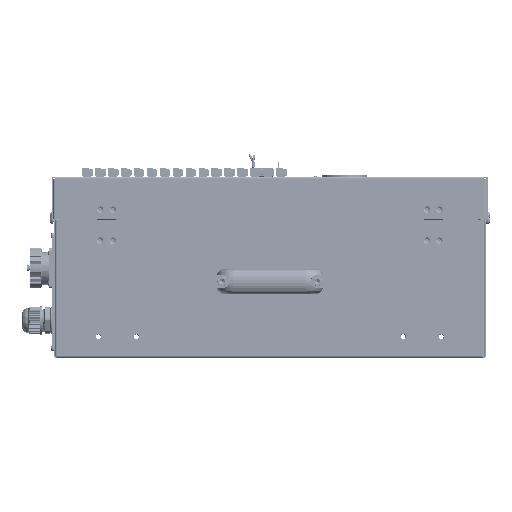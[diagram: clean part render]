
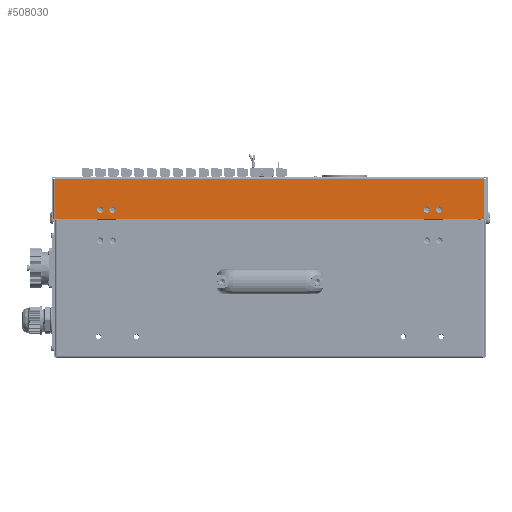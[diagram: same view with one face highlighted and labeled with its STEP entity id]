
A CAD part, front view. The second image highlights one B-rep face of the part: STEP entity #508030.
In plain terms, the highlighted planar face has unit normal (0, -1, 0) as drawn and (0, 1, 0) by its records, which use the part's own axes.
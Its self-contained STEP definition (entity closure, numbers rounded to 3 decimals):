
#704 = CIRCLE ( 'NONE', #171982, 3.35 ) ;
#3171 = LINE ( 'NONE', #317908, #179573 ) ;
#6655 = DIRECTION ( 'NONE',  ( 1., 0., 0. ) ) ;
#9354 = CARTESIAN_POINT ( 'NONE',  ( 178., 85., 36.35 ) ) ;
#19667 = EDGE_LOOP ( 'NONE', ( #700141, #388640 ) ) ;
#40355 = EDGE_CURVE ( 'NONE', #500561, #677300, #829989, .T. ) ;
#43364 = AXIS2_PLACEMENT_3D ( 'NONE', #459172, #386865, #922366 ) ;
#46077 = ORIENTED_EDGE ( 'NONE', *, *, #455332, .F. ) ;
#76170 = DIRECTION ( 'NONE',  ( 0., 1., 0. ) ) ;
#78051 = CARTESIAN_POINT ( 'NONE',  ( 225.4, 85., 0.5 ) ) ;
#78716 = EDGE_CURVE ( 'NONE', #88419, #425258, #3171, .T. ) ;
#87943 = EDGE_LOOP ( 'NONE', ( #888304, #640001, #505642, #624016 ) ) ;
#88419 = VERTEX_POINT ( 'NONE', #318097 ) ;
#94039 = EDGE_CURVE ( 'NONE', #402740, #586311, #324300, .T. ) ;
#110724 = DIRECTION ( 'NONE',  ( 0., 0., 1. ) ) ;
#115461 = DIRECTION ( 'NONE',  ( 0., 0., 1. ) ) ;
#118686 = DIRECTION ( 'NONE',  ( 0., 1., 0. ) ) ;
#127034 = DIRECTION ( 'NONE',  ( 0., 1., 0. ) ) ;
#130640 = EDGE_CURVE ( 'NONE', #586311, #402740, #425276, .T. ) ;
#141798 = LINE ( 'NONE', #778098, #752919 ) ;
#156162 = CARTESIAN_POINT ( 'NONE',  ( 178., 85., 33. ) ) ;
#156526 = VERTEX_POINT ( 'NONE', #568489 ) ;
#169940 = VERTEX_POINT ( 'NONE', #590546 ) ;
#171982 = AXIS2_PLACEMENT_3D ( 'NONE', #526538, #76170, #677769 ) ;
#179573 = VECTOR ( 'NONE', #481869, 1000. ) ;
#191226 = ORIENTED_EDGE ( 'NONE', *, *, #40355, .F. ) ;
#192500 = FACE_OUTER_BOUND ( 'NONE', #87943, .T. ) ;
#201734 = AXIS2_PLACEMENT_3D ( 'NONE', #565717, #118686, #115461 ) ;
#220878 = VERTEX_POINT ( 'NONE', #528715 ) ;
#221768 = CIRCLE ( 'NONE', #598335, 3.35 ) ;
#226929 = CARTESIAN_POINT ( 'NONE',  ( 225.4, 85., 43. ) ) ;
#228561 = DIRECTION ( 'NONE',  ( 0., 1., 0. ) ) ;
#245497 = DIRECTION ( 'NONE',  ( -1., 0., 0. ) ) ;
#251252 = DIRECTION ( 'NONE',  ( 0., 0., 1. ) ) ;
#255924 = EDGE_CURVE ( 'NONE', #827995, #169940, #141798, .T. ) ;
#267923 = CIRCLE ( 'NONE', #201734, 3.35 ) ;
#274556 = FACE_BOUND ( 'NONE', #822486, .T. ) ;
#287351 = AXIS2_PLACEMENT_3D ( 'NONE', #350666, #127034, #951975 ) ;
#317908 = CARTESIAN_POINT ( 'NONE',  ( -225.4, 85., 0. ) ) ;
#318097 = CARTESIAN_POINT ( 'NONE',  ( -225.4, 85., 43. ) ) ;
#322716 = CARTESIAN_POINT ( 'NONE',  ( 165., 85., 33. ) ) ;
#324300 = CIRCLE ( 'NONE', #341841, 3.35 ) ;
#341841 = AXIS2_PLACEMENT_3D ( 'NONE', #322716, #628152, #763157 ) ;
#349750 = VERTEX_POINT ( 'NONE', #766215 ) ;
#350666 = CARTESIAN_POINT ( 'NONE',  ( -165., 85., 33. ) ) ;
#352063 = DIRECTION ( 'NONE',  ( 0., 1., 0. ) ) ;
#367466 = EDGE_CURVE ( 'NONE', #220878, #156526, #267923, .T. ) ;
#386865 = DIRECTION ( 'NONE',  ( 0., 1., 0. ) ) ;
#388640 = ORIENTED_EDGE ( 'NONE', *, *, #94039, .F. ) ;
#392292 = FACE_BOUND ( 'NONE', #536755, .T. ) ;
#402740 = VERTEX_POINT ( 'NONE', #477770 ) ;
#421004 = CARTESIAN_POINT ( 'NONE',  ( 165., 85., 33. ) ) ;
#425258 = VERTEX_POINT ( 'NONE', #703007 ) ;
#425276 = CIRCLE ( 'NONE', #451438, 3.35 ) ;
#432694 = CARTESIAN_POINT ( 'NONE',  ( -178., 85., 33. ) ) ;
#434826 = EDGE_CURVE ( 'NONE', #827995, #425258, #869616, .T. ) ;
#445012 = ORIENTED_EDGE ( 'NONE', *, *, #902217, .F. ) ;
#451438 = AXIS2_PLACEMENT_3D ( 'NONE', #421004, #352063, #644534 ) ;
#455332 = EDGE_CURVE ( 'NONE', #349750, #793153, #221768, .T. ) ;
#459172 = CARTESIAN_POINT ( 'NONE',  ( -165., 85., 33. ) ) ;
#466577 = CIRCLE ( 'NONE', #696536, 3.35 ) ;
#468979 = ORIENTED_EDGE ( 'NONE', *, *, #735029, .F. ) ;
#474686 = DIRECTION ( 'NONE',  ( 0., 1., 0. ) ) ;
#477770 = CARTESIAN_POINT ( 'NONE',  ( 165., 85., 29.65 ) ) ;
#481034 = VECTOR ( 'NONE', #245497, 1000. ) ;
#481869 = DIRECTION ( 'NONE',  ( 0., 0., -1. ) ) ;
#493955 = CARTESIAN_POINT ( 'NONE',  ( -165., 85., 36.35 ) ) ;
#500561 = VERTEX_POINT ( 'NONE', #493955 ) ;
#505642 = ORIENTED_EDGE ( 'NONE', *, *, #78716, .F. ) ;
#508030 = ADVANCED_FACE ( 'NONE', ( #874213, #721479, #274556, #392292, #192500 ), #701470, .T. ) ;
#514812 = DIRECTION ( 'NONE',  ( 0., 0., 1. ) ) ;
#514919 = ORIENTED_EDGE ( 'NONE', *, *, #938410, .F. ) ;
#526538 = CARTESIAN_POINT ( 'NONE',  ( 178., 85., 33. ) ) ;
#528715 = CARTESIAN_POINT ( 'NONE',  ( -178., 85., 29.65 ) ) ;
#536755 = EDGE_LOOP ( 'NONE', ( #191226, #514919 ) ) ;
#565717 = CARTESIAN_POINT ( 'NONE',  ( -178., 85., 33. ) ) ;
#568489 = CARTESIAN_POINT ( 'NONE',  ( -178., 85., 36.35 ) ) ;
#570116 = AXIS2_PLACEMENT_3D ( 'NONE', #698248, #474686, #251252 ) ;
#575803 = CIRCLE ( 'NONE', #287351, 3.35 ) ;
#586311 = VERTEX_POINT ( 'NONE', #776375 ) ;
#590546 = CARTESIAN_POINT ( 'NONE',  ( 225.4, 85., 43. ) ) ;
#598335 = AXIS2_PLACEMENT_3D ( 'NONE', #156162, #228561, #682062 ) ;
#624016 = ORIENTED_EDGE ( 'NONE', *, *, #850926, .T. ) ;
#628152 = DIRECTION ( 'NONE',  ( 0., 1., 0. ) ) ;
#640001 = ORIENTED_EDGE ( 'NONE', *, *, #434826, .T. ) ;
#644534 = DIRECTION ( 'NONE',  ( 0., 0., 1. ) ) ;
#677300 = VERTEX_POINT ( 'NONE', #946052 ) ;
#677769 = DIRECTION ( 'NONE',  ( 0., 0., 1. ) ) ;
#682062 = DIRECTION ( 'NONE',  ( 0., 0., 1. ) ) ;
#696536 = AXIS2_PLACEMENT_3D ( 'NONE', #432694, #965072, #514812 ) ;
#698248 = CARTESIAN_POINT ( 'NONE',  ( 0., 85., 0. ) ) ;
#700141 = ORIENTED_EDGE ( 'NONE', *, *, #130640, .F. ) ;
#701470 = PLANE ( 'NONE',  #570116 ) ;
#703007 = CARTESIAN_POINT ( 'NONE',  ( -225.4, 85., 0.5 ) ) ;
#721479 = FACE_BOUND ( 'NONE', #19667, .T. ) ;
#735029 = EDGE_CURVE ( 'NONE', #793153, #349750, #704, .T. ) ;
#735569 = LINE ( 'NONE', #226929, #959089 ) ;
#752919 = VECTOR ( 'NONE', #110724, 1000. ) ;
#763157 = DIRECTION ( 'NONE',  ( 0., 0., 1. ) ) ;
#763783 = EDGE_LOOP ( 'NONE', ( #468979, #46077 ) ) ;
#766215 = CARTESIAN_POINT ( 'NONE',  ( 178., 85., 29.65 ) ) ;
#776375 = CARTESIAN_POINT ( 'NONE',  ( 165., 85., 36.35 ) ) ;
#778098 = CARTESIAN_POINT ( 'NONE',  ( 225.4, 85., 28.5 ) ) ;
#793153 = VERTEX_POINT ( 'NONE', #9354 ) ;
#822486 = EDGE_LOOP ( 'NONE', ( #445012, #859396 ) ) ;
#827995 = VERTEX_POINT ( 'NONE', #78051 ) ;
#829989 = CIRCLE ( 'NONE', #43364, 3.35 ) ;
#850926 = EDGE_CURVE ( 'NONE', #88419, #169940, #735569, .T. ) ;
#859396 = ORIENTED_EDGE ( 'NONE', *, *, #367466, .F. ) ;
#869616 = LINE ( 'NONE', #932129, #481034 ) ;
#874213 = FACE_BOUND ( 'NONE', #763783, .T. ) ;
#888304 = ORIENTED_EDGE ( 'NONE', *, *, #255924, .F. ) ;
#902217 = EDGE_CURVE ( 'NONE', #156526, #220878, #466577, .T. ) ;
#922366 = DIRECTION ( 'NONE',  ( 0., 0., 1. ) ) ;
#932129 = CARTESIAN_POINT ( 'NONE',  ( 0., 85., 0.5 ) ) ;
#938410 = EDGE_CURVE ( 'NONE', #677300, #500561, #575803, .T. ) ;
#946052 = CARTESIAN_POINT ( 'NONE',  ( -165., 85., 29.65 ) ) ;
#951975 = DIRECTION ( 'NONE',  ( 0., 0., 1. ) ) ;
#959089 = VECTOR ( 'NONE', #6655, 1000. ) ;
#965072 = DIRECTION ( 'NONE',  ( 0., 1., 0. ) ) ;
